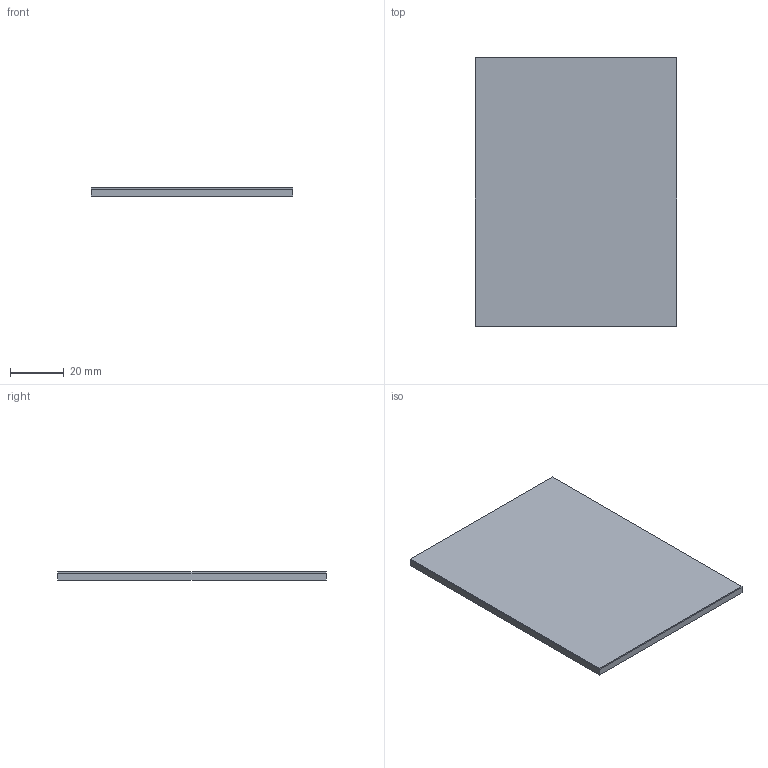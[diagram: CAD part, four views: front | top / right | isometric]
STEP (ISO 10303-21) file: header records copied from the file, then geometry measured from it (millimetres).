
FILE_DESCRIPTION(/* description */ ('VariCAD 2010-3.03 AP-214'),/* implementation_level */ '2;1');
FILE_NAME(/* name */ '0353-70-13',/* time_stamp */ '2011-01-17T18:03:52-07:00',/* author */ (''),/* organization */ (''),/* preprocessor_version */ 'ST-DEVELOPER v12',/* originating_system */ 'VariCAD 2010-3.03; kernel version (20100102)',/* authorisation */ '');
FILE_SCHEMA (('AUTOMOTIVE_DESIGN'));
Length unit declared in the file: millimetre
Products named in the file (1): Part
Bounding box: 75 x 100 x 3 mm (x, y, z)
Volume: 22500 mm3; surface area: 16050 mm2
Topology: 1 solids, 1 shells, 10 faces, 20 edges, 12 vertices
Faces by surface type: plane 10
Entity records: 315 total; most frequent: DIRECTION 44, CARTESIAN_POINT 44, ORIENTED_EDGE 40, EDGE_CURVE 20, LINE 20, VECTOR 20, VERTEX_POINT 12, AXIS2_PLACEMENT_3D 12
